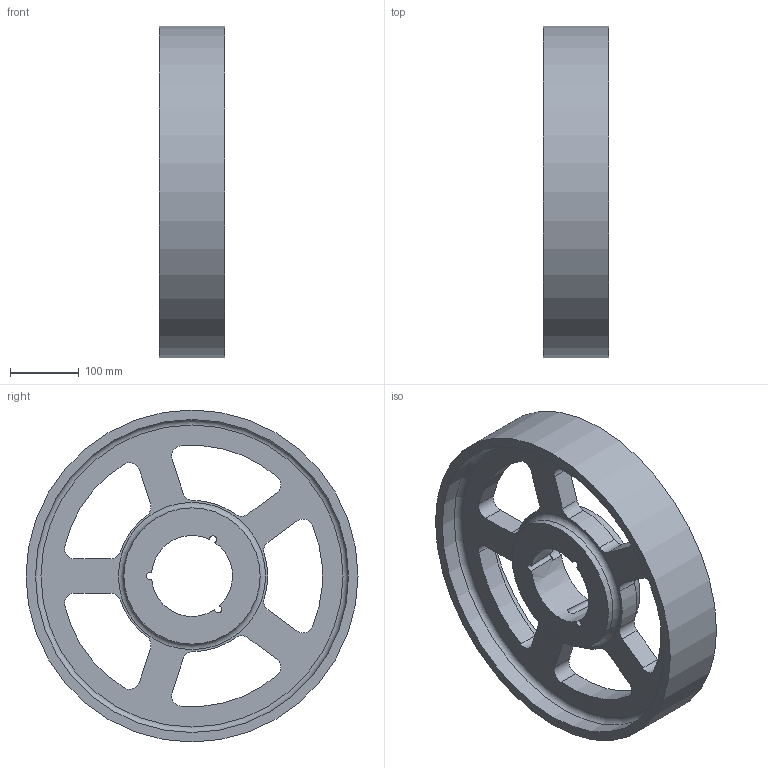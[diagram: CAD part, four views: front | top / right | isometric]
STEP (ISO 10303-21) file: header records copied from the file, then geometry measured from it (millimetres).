
FILE_DESCRIPTION(/* description */ (''),/* implementation_level */ '2;1');
FILE_NAME(/* name */ 'C:\Users\stagistaCAD\Desktop\41485192.stp',/* time_stamp */ '2018-06-19T14:56:07+02:00',/* author */ ('stagistacad'),/* organization */ (''),/* preprocessor_version */ 'ST-DEVELOPER v15.6',/* originating_system */ 'Autodesk Inventor 2015',/* authorisation */ '');
FILE_SCHEMA (('AUTOMOTIVE_DESIGN { 1 0 10303 214 3 1 1 }'));
Length unit declared in the file: millimetre
Products named in the file (1): 41485192
Bounding box: 95 x 482.58 x 482.58 mm (x, y, z)
Volume: 5528706.5 mm3; surface area: 567405.3 mm2
Topology: 1 solids, 1 shells, 71 faces, 195 edges, 128 vertices
Faces by surface type: cylinder 43, plane 19, cone 5, torus 4
Full cylindrical faces by diameter (mm): 198 x2, 455 x2, 482.58 x1
Entity records: 2386 total; most frequent: CARTESIAN_POINT 522, DIRECTION 412, ORIENTED_EDGE 364, EDGE_CURVE 182, AXIS2_PLACEMENT_3D 176, VERTEX_POINT 126, CIRCLE 104, EDGE_LOOP 96
